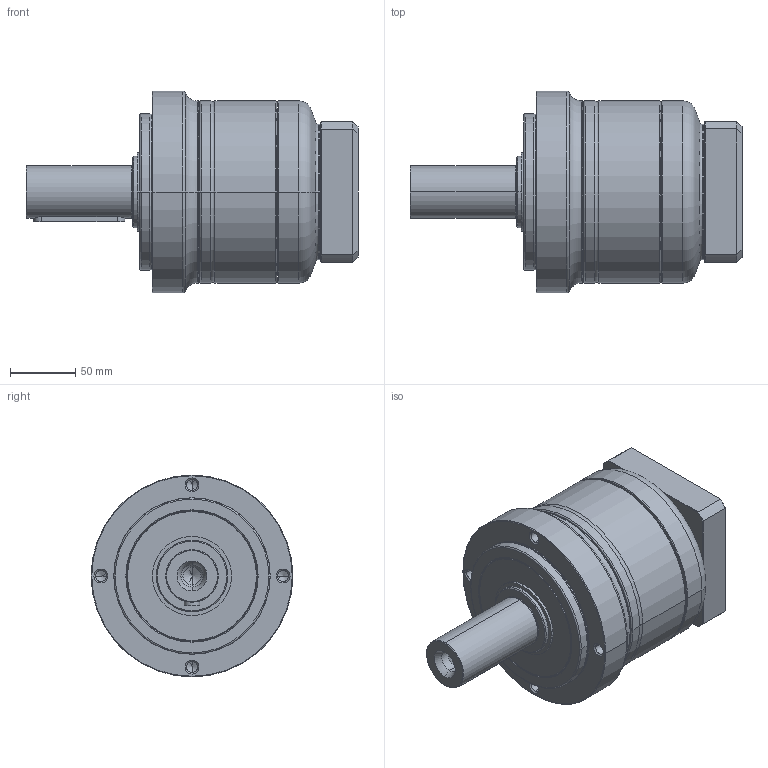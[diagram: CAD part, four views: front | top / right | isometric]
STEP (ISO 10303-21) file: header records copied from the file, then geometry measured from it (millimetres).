
FILE_DESCRIPTION((''),'2;1');
FILE_NAME('PE2-155_1ST_28-P0411600101_ASM','2017-05-31T',('d01943'),(''),'PRO/ENGINEER BY PARAMETRIC TECHNOLOGY CORPORATION, 2008410','PRO/ENGINEER BY PARAMETRIC TECHNOLOGY CORPORATION, 2008410','');
FILE_SCHEMA(('CONFIG_CONTROL_DESIGN'));
Length unit declared in the file: millimetre
Products named in the file (9): P1323510001; P0250500001; P1324500201; P0350501001; P0941502001; P0503600008; P0411600101; P1702500001; PE2-155_1ST_28-P0411600101_ASM
Assembly tree (8 placements, depth 2):
  PE2-155_1ST_28-P0411600101_ASM
    P1323510001
    P0250500001
    P1324500201
    P0350501001
    P0941502001
    P0503600008
    P0411600101
    P1702500001
Bounding box: 255 x 155 x 155 mm (x, y, z)
Volume: 2022817.1 mm3; surface area: 292993.3 mm2
Topology: 8 solids, 8 shells, 465 faces, 1019 edges, 584 vertices
Faces by surface type: cone 138, cylinder 136, torus 98, plane 77, bspline 16
Entity records: 17246 total; most frequent: CARTESIAN_POINT 6818, DIRECTION 2377, ORIENTED_EDGE 1974, AXIS2_PLACEMENT_3D 1021, EDGE_CURVE 987, VERTEX_POINT 584, CIRCLE 555, EDGE_LOOP 527
